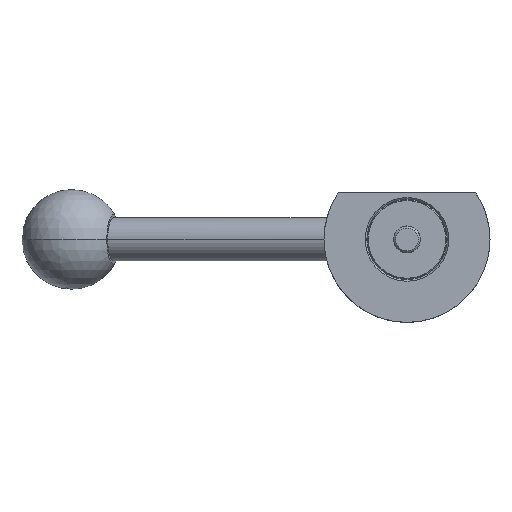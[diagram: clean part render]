
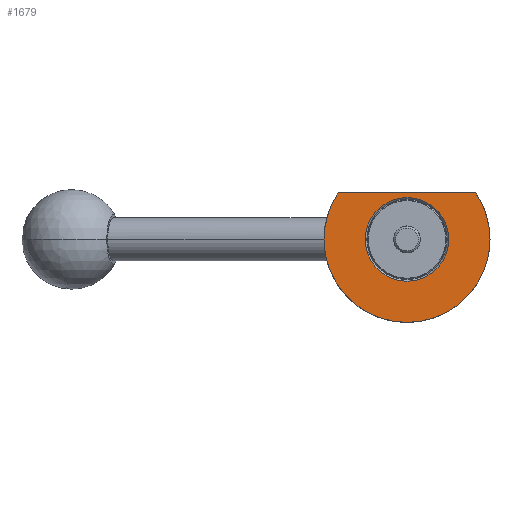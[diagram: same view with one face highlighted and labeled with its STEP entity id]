
A CAD part, front view. The second image highlights one B-rep face of the part: STEP entity #1679.
In plain terms, the highlighted planar face has unit normal (0, -1, 0).
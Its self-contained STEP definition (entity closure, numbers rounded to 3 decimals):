
#14 = CARTESIAN_POINT ( 'NONE',  ( -12.6, -12., 14. ) ) ;
#106 = CIRCLE ( 'NONE', #1280, 12.6 ) ;
#162 = EDGE_CURVE ( 'NONE', #1220, #1180, #779, .T. ) ;
#194 = EDGE_CURVE ( 'NONE', #1014, #1118, #950, .T. ) ;
#211 = CIRCLE ( 'NONE', #1877, 25. ) ;
#263 = AXIS2_PLACEMENT_3D ( 'NONE', #867, #1694, #1974 ) ;
#280 = CARTESIAN_POINT ( 'NONE',  ( 0., -12., 0. ) ) ;
#290 = EDGE_CURVE ( 'NONE', #1170, #1180, #1045, .T. ) ;
#414 = CARTESIAN_POINT ( 'NONE',  ( 0., -12., 0. ) ) ;
#418 = CARTESIAN_POINT ( 'NONE',  ( 0., -12., 0. ) ) ;
#422 = DIRECTION ( 'NONE',  ( -1., 0., 0. ) ) ;
#504 = CARTESIAN_POINT ( 'NONE',  ( 20.712, -12., 14. ) ) ;
#578 = DIRECTION ( 'NONE',  ( -1., 0., 0. ) ) ;
#596 = CARTESIAN_POINT ( 'NONE',  ( 12.6, -12., 0. ) ) ;
#605 = DIRECTION ( 'NONE',  ( -1., 0., 0. ) ) ;
#625 = EDGE_CURVE ( 'NONE', #1118, #1014, #106, .T. ) ;
#641 = EDGE_LOOP ( 'NONE', ( #1916, #1696 ) ) ;
#673 = CARTESIAN_POINT ( 'NONE',  ( -20.712, -12., 14. ) ) ;
#745 = DIRECTION ( 'NONE',  ( 0., 1., 0. ) ) ;
#779 = LINE ( 'NONE', #14, #1279 ) ;
#793 = DIRECTION ( 'NONE',  ( -1., 0., 0. ) ) ;
#806 = ORIENTED_EDGE ( 'NONE', *, *, #831, .F. ) ;
#809 = ORIENTED_EDGE ( 'NONE', *, *, #162, .T. ) ;
#831 = EDGE_CURVE ( 'NONE', #1384, #1170, #211, .T. ) ;
#867 = CARTESIAN_POINT ( 'NONE',  ( -12.6, -12., 0. ) ) ;
#873 = DIRECTION ( 'NONE',  ( 0., 1., 0. ) ) ;
#904 = CARTESIAN_POINT ( 'NONE',  ( 25., -12., 0. ) ) ;
#906 = DIRECTION ( 'NONE',  ( 0., 1., 0. ) ) ;
#950 = CIRCLE ( 'NONE', #1345, 12.6 ) ;
#971 = CARTESIAN_POINT ( 'NONE',  ( 0., -12., 0. ) ) ;
#988 = CIRCLE ( 'NONE', #1711, 25. ) ;
#990 = DIRECTION ( 'NONE',  ( -1., 0., 0. ) ) ;
#1014 = VERTEX_POINT ( 'NONE', #1204 ) ;
#1023 = DIRECTION ( 'NONE',  ( -1., 0., 0. ) ) ;
#1045 = CIRCLE ( 'NONE', #1246, 25. ) ;
#1063 = PLANE ( 'NONE',  #263 ) ;
#1118 = VERTEX_POINT ( 'NONE', #596 ) ;
#1125 = EDGE_CURVE ( 'NONE', #1220, #1384, #988, .T. ) ;
#1170 = VERTEX_POINT ( 'NONE', #1388 ) ;
#1180 = VERTEX_POINT ( 'NONE', #673 ) ;
#1204 = CARTESIAN_POINT ( 'NONE',  ( -12.6, -12., 0. ) ) ;
#1220 = VERTEX_POINT ( 'NONE', #504 ) ;
#1246 = AXIS2_PLACEMENT_3D ( 'NONE', #414, #1844, #422 ) ;
#1279 = VECTOR ( 'NONE', #605, 1000. ) ;
#1280 = AXIS2_PLACEMENT_3D ( 'NONE', #418, #873, #578 ) ;
#1337 = ORIENTED_EDGE ( 'NONE', *, *, #290, .F. ) ;
#1345 = AXIS2_PLACEMENT_3D ( 'NONE', #280, #745, #1023 ) ;
#1362 = FACE_BOUND ( 'NONE', #641, .T. ) ;
#1384 = VERTEX_POINT ( 'NONE', #904 ) ;
#1388 = CARTESIAN_POINT ( 'NONE',  ( -25., -12., 0. ) ) ;
#1599 = DIRECTION ( 'NONE',  ( 0., 1., 0. ) ) ;
#1679 = ADVANCED_FACE ( 'NONE', ( #1362, #1685 ), #1063, .T. ) ;
#1685 = FACE_OUTER_BOUND ( 'NONE', #1728, .T. ) ;
#1691 = CARTESIAN_POINT ( 'NONE',  ( 0., -12., 0. ) ) ;
#1694 = DIRECTION ( 'NONE',  ( 0., -1., 0. ) ) ;
#1696 = ORIENTED_EDGE ( 'NONE', *, *, #194, .T. ) ;
#1711 = AXIS2_PLACEMENT_3D ( 'NONE', #1691, #906, #793 ) ;
#1728 = EDGE_LOOP ( 'NONE', ( #2008, #809, #1337, #806 ) ) ;
#1844 = DIRECTION ( 'NONE',  ( 0., 1., 0. ) ) ;
#1877 = AXIS2_PLACEMENT_3D ( 'NONE', #971, #1599, #990 ) ;
#1916 = ORIENTED_EDGE ( 'NONE', *, *, #625, .T. ) ;
#1974 = DIRECTION ( 'NONE',  ( 1., 0., 0. ) ) ;
#2008 = ORIENTED_EDGE ( 'NONE', *, *, #1125, .F. ) ;
